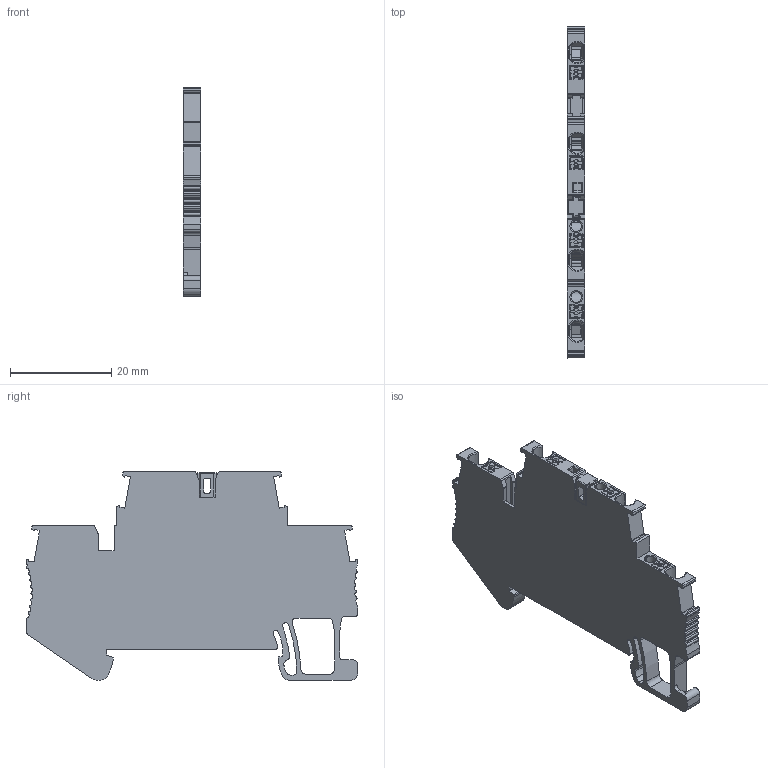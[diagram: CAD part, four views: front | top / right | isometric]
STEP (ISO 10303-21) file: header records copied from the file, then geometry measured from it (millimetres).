
FILE_DESCRIPTION((''),'2;1');
FILE_NAME('UPT-1_5-2L_ASSY','2024-03-29T16:10:11',('Administrator'),(''),'CREO PARAMETRIC BY PTC INC, 2018050','CREO PARAMETRIC BY PTC INC, 2018050','');
FILE_SCHEMA(('CONFIG_CONTROL_DESIGN'));
Length unit declared in the file: millimetre
Products named in the file (1): UPT-1_5-2L_ASSY
Bounding box: 3.5 x 65.4 x 41.1 mm (x, y, z)
Volume: 6033.7 mm3; surface area: 5933 mm2
Topology: 1 solids, 2 shells, 1254 faces, 3400 edges, 2098 vertices
Faces by surface type: plane 529, cylinder 507, sphere 69, torus 60, cone 48, extrusion 21, bspline 20
Entity records: 41679 total; most frequent: CARTESIAN_POINT 10326, ORIENTED_EDGE 6672, DIRECTION 6520, EDGE_CURVE 3336, AXIS2_PLACEMENT_3D 2258, VERTEX_POINT 2098, VECTOR 2004, LINE 1983
